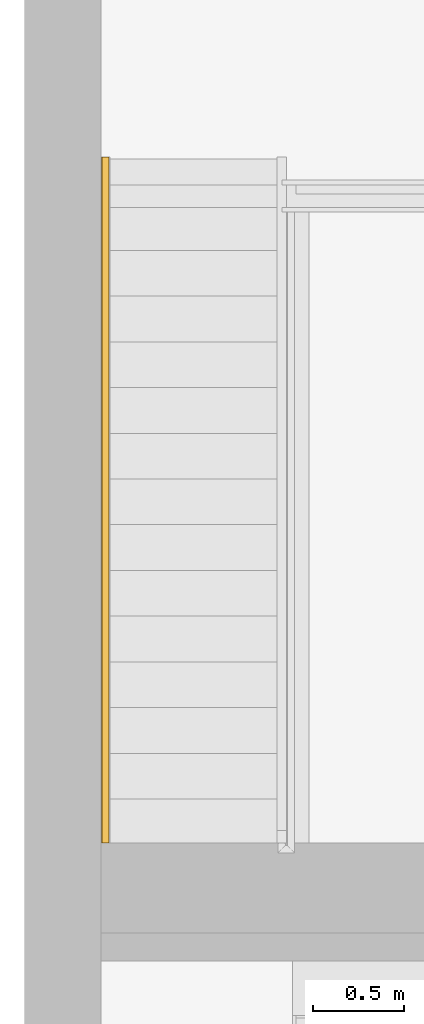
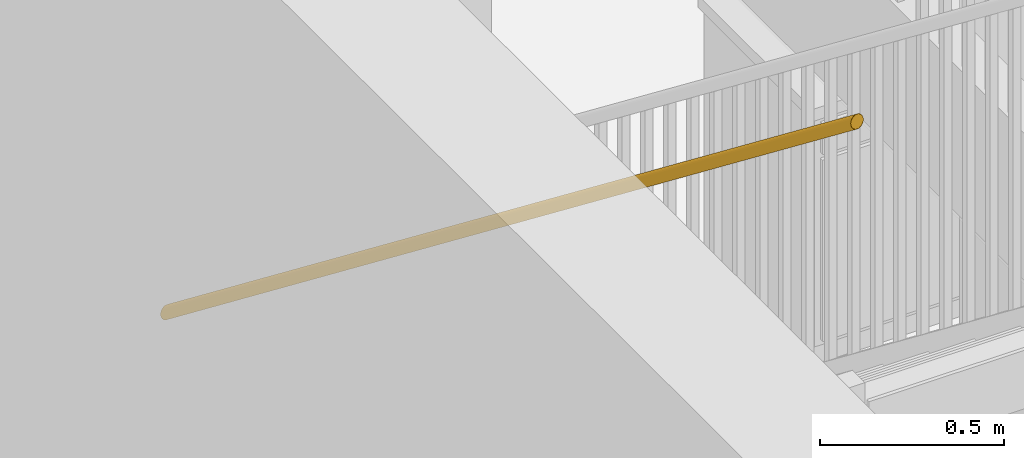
# One storey, part 7 of 18: 1 railing, 1 element without a shape of its own.
"""IFC4 building model written with IfcOpenShell, lengths in metres."""

from ifc_helpers import new_model, entity, si_unit, converted_unit, frame, origin, place, context, project, spatial, face_set, surface_model, element, aggregate, save


model = new_model("IFC4")

# Units and contexts
model_context = context("Model", 3, precision=1e-09, world=origin())
plan_context = context("Plan", 3, precision=1e-09, world=origin())
ifc_project = project(units=[si_unit("LENGTHUNIT", "METRE"), si_unit("AREAUNIT", "SQUARE_METRE"), si_unit("VOLUMEUNIT", "CUBIC_METRE"), converted_unit("PLANEANGLEUNIT", "DEGREE", entity("IfcRatioMeasure", 0.01745329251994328), si_unit("PLANEANGLEUNIT", "RADIAN"), dimensions=[0, 0, 0, 0, 0, 0, 0]), si_unit("TIMEUNIT", "SECOND")], contexts=[model_context, plan_context])

# Site, building, storey
site_placement = place(None, origin())
site = spatial("IfcSite", under=ifc_project, at=site_placement, Name="Default", CompositionType="ELEMENT")
building_placement = place(site_placement, origin())
building = spatial("IfcBuilding", under=site, at=building_placement, CompositionType="ELEMENT")
storey_placement = place(building_placement, origin())
storey = spatial("IfcBuildingStorey", under=building, at=storey_placement, Name="Level 1", CompositionType="ELEMENT", Elevation=0.0)

# Stair, railing
stair_placement = place(storey_placement, origin())
stair = element("IfcStair", 1, at=stair_placement, inside=storey, Name="Stair:Residential - 200mm Max Riser 250mm Tread", ObjectType="Stair:Residential - 200mm Max Riser 250mm Tread")
railing_placement = place(storey_placement, frame((0.4204047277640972, -9.724999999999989, 1.041548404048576)))
railing = element("IfcRailing", 2, at=railing_placement, Name="Railing:900mm Handrail Only", ObjectType="Railing:900mm Handrail Only", PredefinedType="NOTDEFINED", context=model_context, shape_type="SurfaceModel", body=[
    surface_model("IfcFaceBasedSurfaceModel", [(0.001595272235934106, 3.75, 0.02689843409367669), (0.002276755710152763, 3.75, 0.03344737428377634), (0.007453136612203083, 3.75, 0.04479047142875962), (0.01641889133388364, 3.75, 0.05133941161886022), (0.02677165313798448, 3.75, 0.05133941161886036), (0.03573740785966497, 3.75, 0.04479047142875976), (0.04091378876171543, 3.75, 0.03344737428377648), (0.04159527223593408, 3.75, 0.02689843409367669), (0.04091378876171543, 3.75, 0.02034949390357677), (0.03573740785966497, 3.75, 0.009006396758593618), (0.02677165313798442, 3.75, 0.002457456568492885), (0.01641889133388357, 3.75, 0.002457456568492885), (0.007453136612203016, 3.75, 0.009006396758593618), (0.002276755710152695, 3.75, 0.02034949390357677), (0.001595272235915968, 0.0, 2.933148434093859), (0.002276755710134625, 0.0, 2.939697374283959), (0.007453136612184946, 0.0, 2.951040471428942), (0.0164188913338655, 0.0, 2.957589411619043), (0.02677165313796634, 0.0, 2.957589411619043), (0.03573740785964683, 0.0, 2.951040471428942), (0.04091378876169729, 0.0, 2.939697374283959), (0.04159527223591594, 0.0, 2.933148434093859), (0.04091378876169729, 0.0, 2.926599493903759), (0.03573740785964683, 0.0, 2.915256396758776), (0.02677165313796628, 0.0, 2.908707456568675), (0.01641889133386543, 0.0, 2.908707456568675), (0.007453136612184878, 0.0, 2.915256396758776), (0.002276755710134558, 0.0, 2.926599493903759), (0.03891578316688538, -1.525890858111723e-09, 2.920496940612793), (0.03159526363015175, -1.525890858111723e-09, 2.911235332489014), (0.03159526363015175, 3.750000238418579, 0.004985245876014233), (0.03891578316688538, 3.750000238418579, 0.01424681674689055), (0.02159525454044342, -1.525890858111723e-09, 2.907845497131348), (0.02159525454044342, 3.750000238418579, 0.001595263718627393), (0.01159528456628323, -1.525890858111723e-09, 2.911235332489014), (0.01159528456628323, 3.750000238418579, 0.004985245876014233), (0.004274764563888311, -1.525890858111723e-09, 2.920496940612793), (0.004274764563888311, 3.750000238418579, 0.01424681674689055), (0.004274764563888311, -1.525890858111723e-09, 2.945800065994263), (0.004274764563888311, 3.750000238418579, 0.03954999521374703), (0.01159528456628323, 3.750000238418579, 0.04881164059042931), (0.01159528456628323, -1.525890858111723e-09, 2.955061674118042), (0.02159525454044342, 3.750000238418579, 0.05220162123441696), (0.02159525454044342, -1.525890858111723e-09, 2.958451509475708), (0.03159526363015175, -1.525890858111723e-09, 2.955061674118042), (0.03159526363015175, 3.750000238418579, 0.04881164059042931), (0.03891578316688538, -1.525890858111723e-09, 2.945800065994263), (0.03891578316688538, 3.750000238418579, 0.03954999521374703)], [face_set([[[0, 1, 2, 3, 4, 5, 6, 7, 8, 9, 10, 11, 12, 13]], [[14, 15, 16, 17, 18, 19, 20, 21, 22, 23, 24, 25, 26, 27]], [[22, 28, 8]], [[21, 22, 7]], [[29, 24, 30]], [[23, 29, 9]], [[28, 23, 31]], [[28, 31, 8]], [[8, 7, 22]], [[9, 29, 30]], [[10, 30, 24]], [[31, 23, 9]], [[32, 33, 10, 24]], [[34, 26, 12]], [[25, 34, 35]], [[27, 14, 0]], [[36, 27, 13]], [[26, 36, 37]], [[32, 25, 11, 33]], [[25, 35, 11]], [[26, 37, 12]], [[34, 12, 35]], [[36, 13, 37]], [[27, 0, 13]], [[15, 1, 14]], [[38, 39, 15]], [[40, 16, 41]], [[38, 16, 2]], [[41, 17, 3, 40]], [[1, 0, 14]], [[39, 1, 15]], [[42, 3, 17]], [[40, 2, 16]], [[39, 38, 2]], [[17, 43, 42]], [[42, 18, 4]], [[4, 18, 44, 45]], [[5, 19, 46]], [[44, 19, 45]], [[47, 46, 20]], [[45, 19, 5]], [[20, 6, 47]], [[47, 5, 46]], [[7, 6, 21]], [[20, 21, 6]], [[18, 42, 43]]])]),
])
aggregate(stair, [railing])

save(model, "model.ifc")
